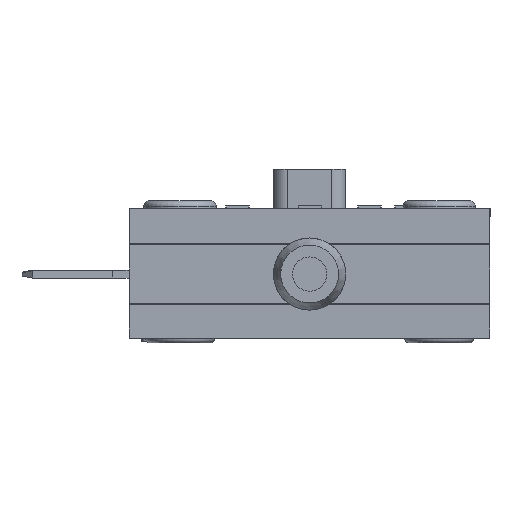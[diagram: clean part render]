
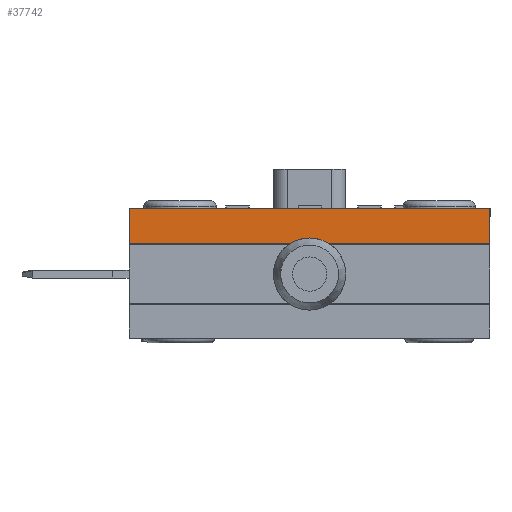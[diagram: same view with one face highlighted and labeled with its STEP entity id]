
A CAD part, left-side view. The second image highlights one B-rep face of the part: STEP entity #37742.
In plain terms, the highlighted planar face has unit normal (-1, 0, 0) as drawn and (1, 0, 0) by its records, which use the part's own axes.
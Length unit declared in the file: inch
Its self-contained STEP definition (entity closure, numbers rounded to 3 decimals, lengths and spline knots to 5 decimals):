
#35901=CARTESIAN_POINT('',(0.5,0.5,-0.097));
#35902=VERTEX_POINT('',#35901);
#35909=CARTESIAN_POINT('',(0.5,-0.5,-0.097));
#35910=VERTEX_POINT('',#35909);
#35911=CARTESIAN_POINT('',(0.5,-0.5,-0.097));
#35912=DIRECTION('',(0.0,1.0,0.0));
#35913=VECTOR('',#35912,1.0);
#35914=LINE('',#35911,#35913);
#35915=EDGE_CURVE('',#35910,#35902,#35914,.T.);
#37701=CARTESIAN_POINT('',(0.5,-0.5,0.0));
#37702=VERTEX_POINT('',#37701);
#37703=CARTESIAN_POINT('',(0.5,-0.5,0.0));
#37704=DIRECTION('',(0.0,0.0,-1.0));
#37705=VECTOR('',#37704,0.097);
#37706=LINE('',#37703,#37705);
#37707=EDGE_CURVE('',#37702,#35910,#37706,.T.);
#37719=CARTESIAN_POINT('',(0.5,-0.5,0.0));
#37720=DIRECTION('',(1.0,0.0,0.0));
#37721=DIRECTION('',(0.0,0.0,-1.0));
#37722=AXIS2_PLACEMENT_3D('',#37719,#37720,#37721);
#37723=PLANE('',#37722);
#37724=ORIENTED_EDGE('',*,*,#35915,.T.);
#37725=CARTESIAN_POINT('',(0.5,0.5,0.0));
#37726=VERTEX_POINT('',#37725);
#37727=CARTESIAN_POINT('',(0.5,0.5,0.0));
#37728=DIRECTION('',(0.0,0.0,-1.0));
#37729=VECTOR('',#37728,0.097);
#37730=LINE('',#37727,#37729);
#37731=EDGE_CURVE('',#37726,#35902,#37730,.T.);
#37732=ORIENTED_EDGE('',*,*,#37731,.F.);
#37733=CARTESIAN_POINT('',(0.5,0.5,0.0));
#37734=DIRECTION('',(0.0,-1.0,0.0));
#37735=VECTOR('',#37734,1.0);
#37736=LINE('',#37733,#37735);
#37737=EDGE_CURVE('',#37726,#37702,#37736,.T.);
#37738=ORIENTED_EDGE('',*,*,#37737,.T.);
#37739=ORIENTED_EDGE('',*,*,#37707,.T.);
#37740=EDGE_LOOP('',(#37724,#37732,#37738,#37739));
#37741=FACE_OUTER_BOUND('',#37740,.T.);
#37742=ADVANCED_FACE('',(#37741),#37723,.T.);
